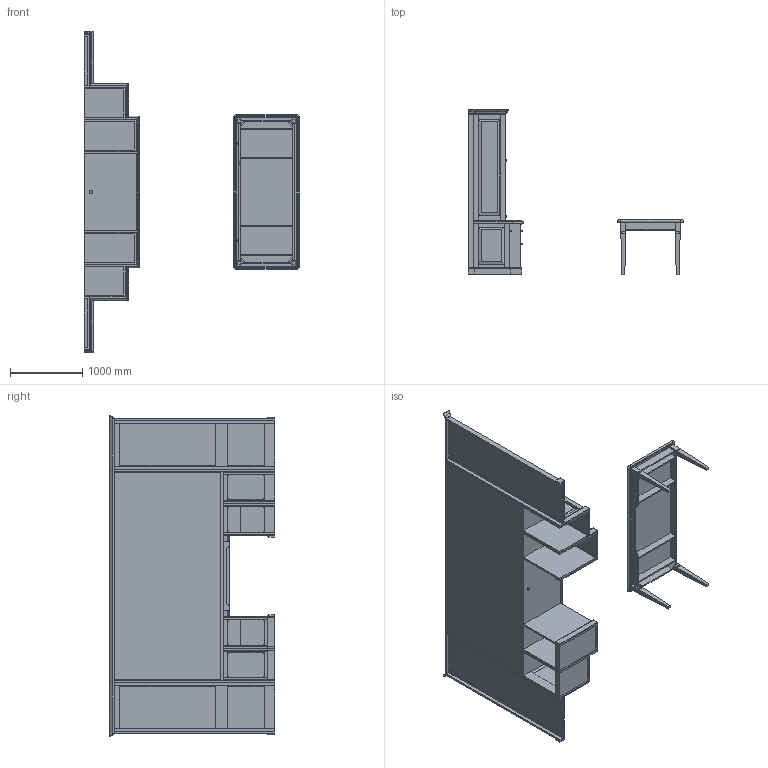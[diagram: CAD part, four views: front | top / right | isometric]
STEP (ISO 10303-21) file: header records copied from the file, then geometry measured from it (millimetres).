
FILE_DESCRIPTION(/* description */ ('','CAx-IF Rec.Pracs.---Representation and Presentation of Product Manufacturing Information (PMI)---4.0---2014-10-13'),/* implementation_level */ '2;1');
FILE_NAME(/* name */ 'PRIVATE OFFICE_CAMBRIDGE 5.stp',/* time_stamp */ '2024-12-08T11:32:19-05:00',/* author */ ('mbowman'),/* organization */ (''),/* preprocessor_version */ 'ST-DEVELOPER v19.2',/* originating_system */ 'Autodesk Inventor 2023',/* authorisation */ '');
FILE_SCHEMA (('AP242_MANAGED_MODEL_BASED_3D_ENGINEERING_MIM_LF { 1 0 10303 442 1 1 4 }'));
Length unit declared in the file: inch
Products named in the file (10): PRIVATE OFFICE_CAMBRIDGE 4; CCN^BRIGHTON_36x84 TABLE DESK-PARTS SOLID; CCN^BRIGHTON_36x84 TABLE DESK-PARTS SOLID_1; CCN^BRIGHTON_L2 STEPPED WALL-SOLID ASSEMBLY; CCN^BRIGHTON_L2-A LEFT WALL-PARTS SOLID; CCN^BRIGHTON_L2-A RIGHT WALL-PARTS SOLID; CCN^BRIGHTON_L2-A STEPPED WALL-PARTS SOLID; CCN^BRIGHTON_L2-A STEPPED CREDENZA-PARTS SOLID; ART DECCO^GLAM-HAFELE 110_34_286; CCN^BRIGHTON_36x84 TABLE DESK-PULL
Assembly tree (19 placements, depth 3):
  PRIVATE OFFICE_CAMBRIDGE 4
    CCN^BRIGHTON_36x84 TABLE DESK-PARTS SOLID
      CCN^BRIGHTON_36x84 TABLE DESK-PARTS SOLID_1
      CCN^BRIGHTON_36x84 TABLE DESK-PULL  x2
    CCN^BRIGHTON_L2 STEPPED WALL-SOLID ASSEMBLY
      CCN^BRIGHTON_L2-A LEFT WALL-PARTS SOLID
      CCN^BRIGHTON_L2-A RIGHT WALL-PARTS SOLID
      CCN^BRIGHTON_L2-A STEPPED WALL-PARTS SOLID
      CCN^BRIGHTON_L2-A STEPPED CREDENZA-PARTS SOLID
      ART DECCO^GLAM-HAFELE 110_34_286  x6
      CCN^BRIGHTON_36x84 TABLE DESK-PULL  x4
Bounding box: 2971.78 x 2279.65 x 4445 mm (x, y, z)
Volume: 853228390 mm3; surface area: 75009682.8 mm2
Topology: 140 solids, 140 shells, 1493 faces, 3331 edges, 2120 vertices
Faces by surface type: plane 1159, cylinder 260, torus 70, cone 4
Full cylindrical faces by diameter (mm): 5 x128, 21 x6, 25 x6, 48.26 x1
Entity records: 46549 total; most frequent: CARTESIAN_POINT 9871, DIRECTION 6613, ORIENTED_EDGE 6152, EDGE_CURVE 3076, LINE 2597, VECTOR 2597, STYLED_ITEM 2124, AXIS2_PLACEMENT_3D 2008
